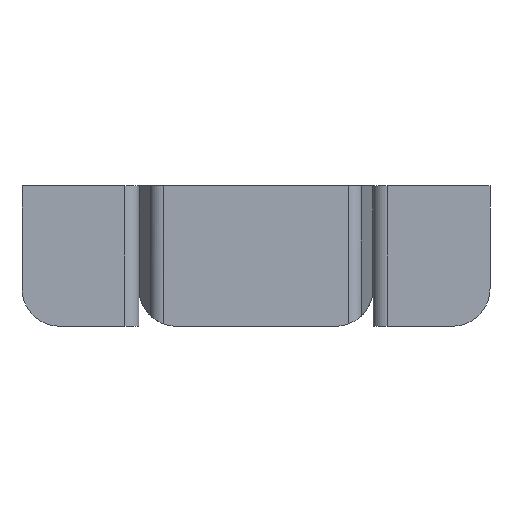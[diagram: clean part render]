
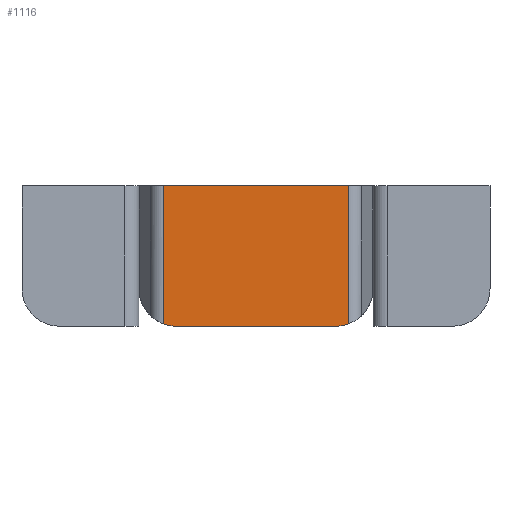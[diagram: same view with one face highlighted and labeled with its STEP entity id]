
A CAD part, left-side view. The second image highlights one B-rep face of the part: STEP entity #1116.
In plain terms, the highlighted planar face has unit normal (-1, 0, 0).
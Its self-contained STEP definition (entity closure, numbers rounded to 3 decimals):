
#52 = EDGE_CURVE ( 'NONE', #1004, #1396, #2030, .T. ) ;
#176 = CARTESIAN_POINT ( 'NONE',  ( -175., 19.751, -29.512 ) ) ;
#269 = PLANE ( 'NONE',  #1085 ) ;
#315 = VERTEX_POINT ( 'NONE', #529 ) ;
#452 = CARTESIAN_POINT ( 'NONE',  ( -175., 19.751, 0. ) ) ;
#469 = EDGE_CURVE ( 'NONE', #2047, #1956, #1273, .T. ) ;
#529 = CARTESIAN_POINT ( 'NONE',  ( -175., -17., -30. ) ) ;
#534 = ORIENTED_EDGE ( 'NONE', *, *, #469, .F. ) ;
#598 = DIRECTION ( 'NONE',  ( 0., 0., 1. ) ) ;
#682 = LINE ( 'NONE', #452, #956 ) ;
#787 = CARTESIAN_POINT ( 'NONE',  ( -175., 17., -22. ) ) ;
#859 = ORIENTED_EDGE ( 'NONE', *, *, #52, .T. ) ;
#900 = VECTOR ( 'NONE', #2192, 1000. ) ;
#907 = EDGE_LOOP ( 'NONE', ( #534, #1314, #1584, #1694, #859, #2040 ) ) ;
#923 = DIRECTION ( 'NONE',  ( -1., 0., 0. ) ) ;
#945 = CARTESIAN_POINT ( 'NONE',  ( -175., -19.751, -30. ) ) ;
#956 = VECTOR ( 'NONE', #1676, 1000. ) ;
#958 = DIRECTION ( 'NONE',  ( -1., 0., 0. ) ) ;
#1004 = VERTEX_POINT ( 'NONE', #1107 ) ;
#1051 = VECTOR ( 'NONE', #1817, 1000. ) ;
#1085 = AXIS2_PLACEMENT_3D ( 'NONE', #1488, #958, #598 ) ;
#1099 = FACE_OUTER_BOUND ( 'NONE', #907, .T. ) ;
#1107 = CARTESIAN_POINT ( 'NONE',  ( -175., -19.751, -29.512 ) ) ;
#1116 = ADVANCED_FACE ( 'NONE', ( #1099 ), #269, .T. ) ;
#1121 = CARTESIAN_POINT ( 'NONE',  ( -175., 19.751, -30. ) ) ;
#1125 = CARTESIAN_POINT ( 'NONE',  ( -175., 17., -30. ) ) ;
#1146 = CARTESIAN_POINT ( 'NONE',  ( -175., -19.751, 0. ) ) ;
#1184 = EDGE_CURVE ( 'NONE', #1263, #315, #2161, .T. ) ;
#1250 = CARTESIAN_POINT ( 'NONE',  ( -175., 19.751, -30. ) ) ;
#1263 = VERTEX_POINT ( 'NONE', #1125 ) ;
#1273 = LINE ( 'NONE', #1121, #900 ) ;
#1293 = CIRCLE ( 'NONE', #1476, 8. ) ;
#1304 = DIRECTION ( 'NONE',  ( 0., 0., 1. ) ) ;
#1314 = ORIENTED_EDGE ( 'NONE', *, *, #2265, .T. ) ;
#1349 = CIRCLE ( 'NONE', #1372, 8. ) ;
#1354 = VECTOR ( 'NONE', #1946, 1000. ) ;
#1372 = AXIS2_PLACEMENT_3D ( 'NONE', #1463, #923, #1304 ) ;
#1396 = VERTEX_POINT ( 'NONE', #1146 ) ;
#1463 = CARTESIAN_POINT ( 'NONE',  ( -175., -17., -22. ) ) ;
#1476 = AXIS2_PLACEMENT_3D ( 'NONE', #787, #2036, #2004 ) ;
#1488 = CARTESIAN_POINT ( 'NONE',  ( -175., 19.751, -30. ) ) ;
#1515 = EDGE_CURVE ( 'NONE', #1956, #1396, #682, .T. ) ;
#1584 = ORIENTED_EDGE ( 'NONE', *, *, #1184, .T. ) ;
#1676 = DIRECTION ( 'NONE',  ( 0., -1., 0. ) ) ;
#1694 = ORIENTED_EDGE ( 'NONE', *, *, #2159, .T. ) ;
#1817 = DIRECTION ( 'NONE',  ( 0., 0., 1. ) ) ;
#1903 = CARTESIAN_POINT ( 'NONE',  ( -175., 19.751, 0. ) ) ;
#1946 = DIRECTION ( 'NONE',  ( 0., -1., 0. ) ) ;
#1956 = VERTEX_POINT ( 'NONE', #1903 ) ;
#2004 = DIRECTION ( 'NONE',  ( 0., 0., 1. ) ) ;
#2030 = LINE ( 'NONE', #945, #1051 ) ;
#2036 = DIRECTION ( 'NONE',  ( -1., 0., 0. ) ) ;
#2040 = ORIENTED_EDGE ( 'NONE', *, *, #1515, .F. ) ;
#2047 = VERTEX_POINT ( 'NONE', #176 ) ;
#2159 = EDGE_CURVE ( 'NONE', #315, #1004, #1349, .T. ) ;
#2161 = LINE ( 'NONE', #1250, #1354 ) ;
#2192 = DIRECTION ( 'NONE',  ( 0., 0., 1. ) ) ;
#2265 = EDGE_CURVE ( 'NONE', #2047, #1263, #1293, .T. ) ;
